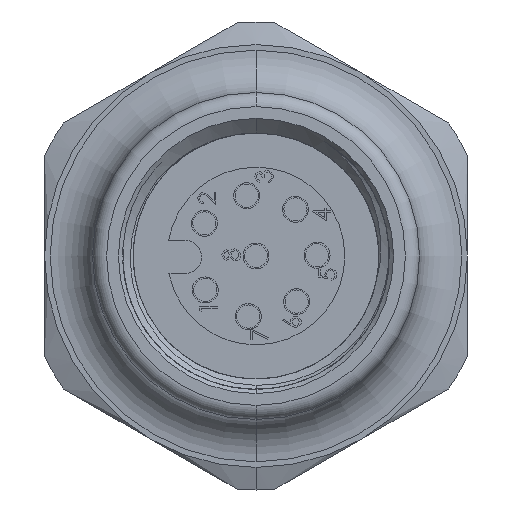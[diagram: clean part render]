
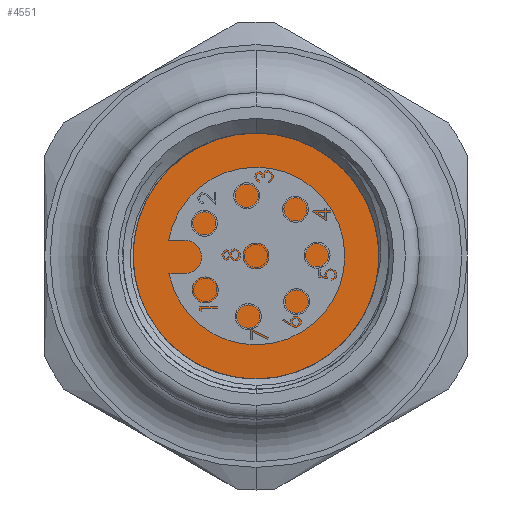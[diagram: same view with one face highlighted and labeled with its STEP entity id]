
A CAD part, left-side view. The second image highlights one B-rep face of the part: STEP entity #4551.
In plain terms, the highlighted planar face has unit normal (-1, 0, 0).
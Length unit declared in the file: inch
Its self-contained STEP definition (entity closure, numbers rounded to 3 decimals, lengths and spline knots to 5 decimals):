
#748 = FACE_OUTER_BOUND ( 'NONE', #4552, .T. ) ;
#795 = DIRECTION ( 'NONE',  ( 0., -1., 0. ) ) ;
#796 = DIRECTION ( 'NONE',  ( -1., 0., 0. ) ) ;
#797 = CARTESIAN_POINT ( 'NONE',  ( 0.29, 0., 0. ) ) ;
#798 = AXIS2_PLACEMENT_3D ( 'NONE', #797, #796, #795 ) ;
#799 = PLANE ( 'NONE',  #798 ) ;
#1039 = CARTESIAN_POINT ( 'NONE',  ( 0.29, 0.25538, 0. ) ) ;
#1060 = AXIS2_PLACEMENT_3D ( 'NONE', #1188, #1213, #1212 ) ;
#1095 = CIRCLE ( 'NONE', #1060, 0.25538 ) ;
#1151 = DIRECTION ( 'NONE',  ( 0., -1., 0. ) ) ;
#1152 = DIRECTION ( 'NONE',  ( -1., 0., 0. ) ) ;
#1153 = CARTESIAN_POINT ( 'NONE',  ( 0.29, 0., 0. ) ) ;
#1154 = AXIS2_PLACEMENT_3D ( 'NONE', #1153, #1152, #1151 ) ;
#1155 = CIRCLE ( 'NONE', #1154, 0.25538 ) ;
#1188 = CARTESIAN_POINT ( 'NONE',  ( 0.29, 0., 0. ) ) ;
#1211 = CARTESIAN_POINT ( 'NONE',  ( 0.29, -0.25538, 0. ) ) ;
#1212 = DIRECTION ( 'NONE',  ( 0., -1., 0. ) ) ;
#1213 = DIRECTION ( 'NONE',  ( -1., 0., 0. ) ) ;
#4551 = ADVANCED_FACE ( 'NONE', ( #748 ), #799, .T. ) ;
#4552 = EDGE_LOOP ( 'NONE', ( #4553, #4564 ) ) ;
#4553 = ORIENTED_EDGE ( 'NONE', *, *, #4591, .T. ) ;
#4564 = ORIENTED_EDGE ( 'NONE', *, *, #4607, .T. ) ;
#4589 = VERTEX_POINT ( 'NONE', #1039 ) ;
#4591 = EDGE_CURVE ( 'NONE', #4592, #4589, #1095, .T. ) ;
#4592 = VERTEX_POINT ( 'NONE', #1211 ) ;
#4607 = EDGE_CURVE ( 'NONE', #4589, #4592, #1155, .T. ) ;
